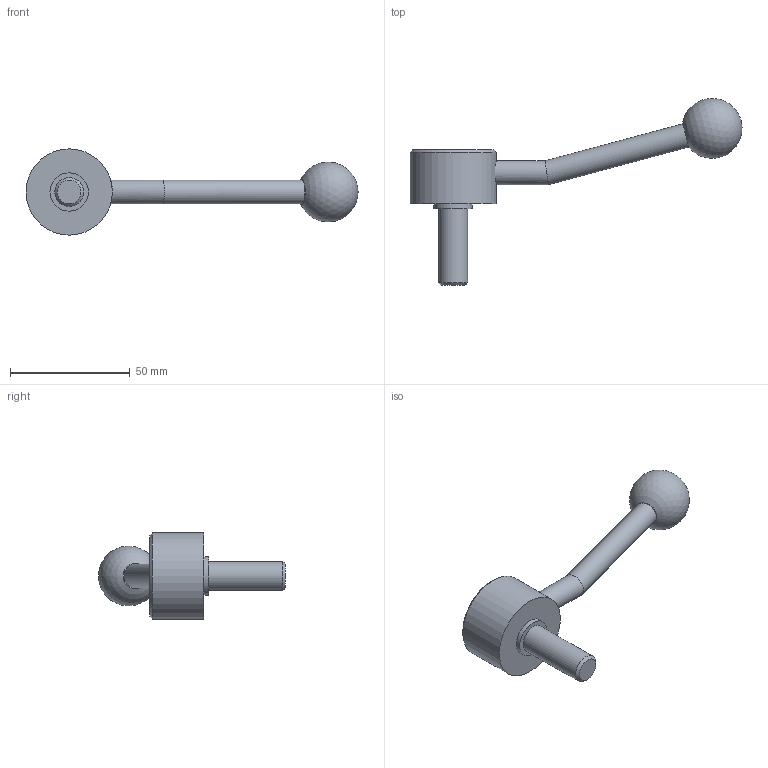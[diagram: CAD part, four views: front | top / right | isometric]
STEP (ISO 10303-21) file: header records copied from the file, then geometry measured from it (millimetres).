
FILE_DESCRIPTION( ( 'STEP AP203' ), '1' );
FILE_NAME( 'C:/Temp/Ganter_Step_05_03_2020/data/2_1/gn_125/gn_125_ms/gn_125_ms_e/Flat Adjustable Lever GN 125-36-M12-32-E.stp', '2020-03-05T11:00:59', ( 'License CC BY-ND 4.0' ), ( 'CADENAS' ), ' ', 'PARTsolutions', ' ' );
FILE_SCHEMA( ( 'CONFIG_CONTROL_DESIGN' ) );
Length unit declared in the file: millimetre
Products named in the file (1): _Flat Adjustable Lever GN 125-36-M12-32-E
Bounding box: 138.41 x 77.94 x 36 mm (x, y, z)
Volume: 41220.5 mm3; surface area: 10173.3 mm2
Topology: 1 solids, 1 shells, 15 faces, 25 edges, 16 vertices
Faces by surface type: cylinder 6, plane 6, cone 2, sphere 1
Full cylindrical faces by diameter (mm): 10 x2, 12 x1, 16 x1, 26 x1, 36 x1
Entity records: 412 total; most frequent: CARTESIAN_POINT 118, DIRECTION 58, AXIS2_PLACEMENT_3D 29, EDGE_LOOP 28, ORIENTED_EDGE 28, FACE_OUTER_BOUND 21, ADVANCED_FACE 15, VERTEX_POINT 15
